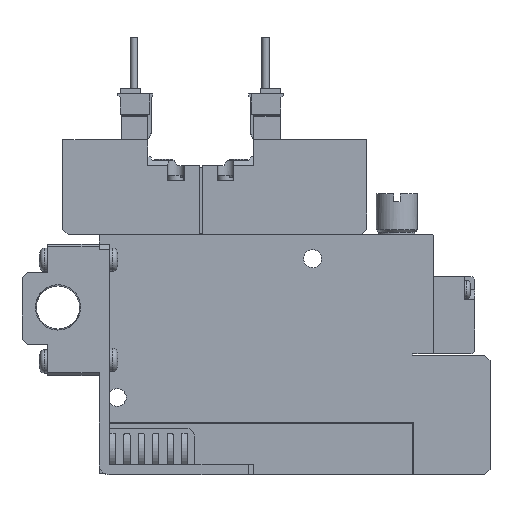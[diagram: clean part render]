
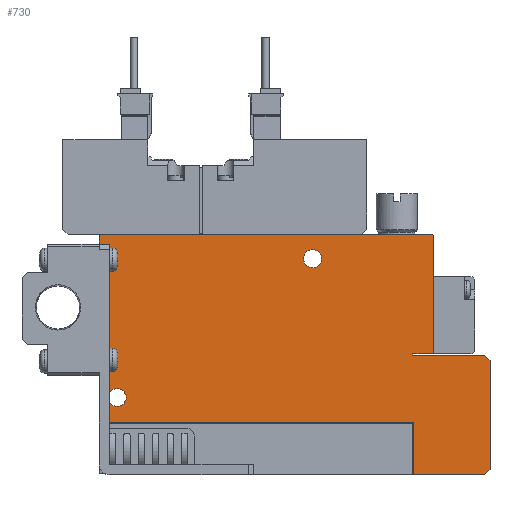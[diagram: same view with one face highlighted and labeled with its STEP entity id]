
A CAD part, top view. The second image highlights one B-rep face of the part: STEP entity #730.
In plain terms, the highlighted planar face has unit normal (0, 0, 1).
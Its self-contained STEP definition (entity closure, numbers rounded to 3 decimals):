
#730=ADVANCED_FACE('',(#1723,#1724,#1725),#1726,.F.);
#1723=FACE_OUTER_BOUND('',#2896,.T.);
#1724=FACE_BOUND('',#2897,.T.);
#1725=FACE_BOUND('',#2898,.T.);
#1726=PLANE('',#2899);
#2896=EDGE_LOOP('',(#6512,#6513,#6514,#6515,#6516,#6517,#6518,#6519,#6520,#6521,#6522,#6523,#6524,#6525));
#2897=EDGE_LOOP('',(#6526));
#2898=EDGE_LOOP('',(#6527));
#2899=AXIS2_PLACEMENT_3D('',#6528,#6529,#6530);
#6512=ORIENTED_EDGE('',*,*,#8621,.T.);
#6513=ORIENTED_EDGE('',*,*,#8467,.F.);
#6514=ORIENTED_EDGE('',*,*,#8608,.F.);
#6515=ORIENTED_EDGE('',*,*,#8617,.T.);
#6516=ORIENTED_EDGE('',*,*,#8604,.T.);
#6517=ORIENTED_EDGE('',*,*,#8612,.T.);
#6518=ORIENTED_EDGE('',*,*,#8610,.T.);
#6519=ORIENTED_EDGE('',*,*,#8571,.T.);
#6520=ORIENTED_EDGE('',*,*,#8327,.T.);
#6521=ORIENTED_EDGE('',*,*,#8484,.T.);
#6522=ORIENTED_EDGE('',*,*,#8485,.T.);
#6523=ORIENTED_EDGE('',*,*,#8465,.T.);
#6524=ORIENTED_EDGE('',*,*,#8555,.T.);
#6525=ORIENTED_EDGE('',*,*,#8590,.T.);
#6526=ORIENTED_EDGE('',*,*,#8518,.F.);
#6527=ORIENTED_EDGE('',*,*,#8624,.F.);
#6528=CARTESIAN_POINT('',(0.0,0.0,5.0));
#6529=DIRECTION('',(0.0,0.0,-1.0));
#6530=DIRECTION('',(0.0,-1.0,0.0));
#8327=EDGE_CURVE('',#10253,#10251,#10254,.T.);
#8465=EDGE_CURVE('',#10500,#10498,#10501,.T.);
#8467=EDGE_CURVE('',#10503,#10504,#10505,.T.);
#8484=EDGE_CURVE('',#10251,#10533,#10535,.T.);
#8485=EDGE_CURVE('',#10533,#10500,#10536,.T.);
#8518=EDGE_CURVE('',#10584,#10584,#10585,.T.);
#8555=EDGE_CURVE('',#10498,#10636,#10638,.T.);
#8571=EDGE_CURVE('',#10661,#10253,#10662,.T.);
#8590=EDGE_CURVE('',#10636,#10685,#10687,.T.);
#8604=EDGE_CURVE('',#10704,#10702,#10705,.T.);
#8608=EDGE_CURVE('',#10708,#10503,#10710,.T.);
#8610=EDGE_CURVE('',#10713,#10661,#10714,.T.);
#8612=EDGE_CURVE('',#10702,#10713,#10716,.T.);
#8617=EDGE_CURVE('',#10708,#10704,#10722,.T.);
#8621=EDGE_CURVE('',#10685,#10504,#10726,.T.);
#8624=EDGE_CURVE('',#10729,#10729,#10730,.T.);
#10251=VERTEX_POINT('',#13387);
#10253=VERTEX_POINT('',#13390);
#10254=LINE('',#13391,#13392);
#10498=VERTEX_POINT('',#13801);
#10500=VERTEX_POINT('',#13804);
#10501=LINE('',#13805,#13806);
#10503=VERTEX_POINT('',#13809);
#10504=VERTEX_POINT('',#13810);
#10505=LINE('',#13811,#13812);
#10533=VERTEX_POINT('',#13855);
#10535=LINE('',#13858,#13859);
#10536=LINE('',#13860,#13861);
#10584=VERTEX_POINT('',#13950);
#10585=CIRCLE('',#13951,1.75);
#10636=VERTEX_POINT('',#14049);
#10638=LINE('',#14052,#14053);
#10661=VERTEX_POINT('',#14096);
#10662=LINE('',#14097,#14098);
#10685=VERTEX_POINT('',#14151);
#10687=LINE('',#14154,#14155);
#10702=VERTEX_POINT('',#14179);
#10704=VERTEX_POINT('',#14182);
#10705=LINE('',#14183,#14184);
#10708=VERTEX_POINT('',#14189);
#10710=LINE('',#14192,#14193);
#10713=VERTEX_POINT('',#14196);
#10714=LINE('',#14197,#14198);
#10716=LINE('',#14201,#14202);
#10722=LINE('',#14212,#14213);
#10726=LINE('',#14220,#14221);
#10729=VERTEX_POINT('',#14224);
#10730=CIRCLE('',#14225,1.75);
#13387=CARTESIAN_POINT('',(61.0,23.5,5.0));
#13390=CARTESIAN_POINT('',(61.0,23.25,5.0));
#13391=CARTESIAN_POINT('',(61.0,23.25,5.0));
#13392=VECTOR('',#16300,1.0);
#13801=CARTESIAN_POINT('',(64.8,46.6,5.0));
#13804=CARTESIAN_POINT('',(65.0,46.4,5.0));
#13805=CARTESIAN_POINT('',(65.0,46.4,5.0));
#13806=VECTOR('',#16476,1.0);
#13809=CARTESIAN_POINT('',(61.1,10.1,5.0));
#13810=CARTESIAN_POINT('',(0.0,10.1,5.0));
#13811=CARTESIAN_POINT('',(61.1,10.1,5.0));
#13812=VECTOR('',#16478,1.0);
#13855=CARTESIAN_POINT('',(65.0,23.5,5.0));
#13858=CARTESIAN_POINT('',(61.0,23.5,5.0));
#13859=VECTOR('',#16495,1.0);
#13860=CARTESIAN_POINT('',(65.0,23.5,5.0));
#13861=VECTOR('',#16496,1.0);
#13950=CARTESIAN_POINT('',(5.25,15.0,5.0));
#13951=AXIS2_PLACEMENT_3D('',#16543,#16544,#16545);
#14049=CARTESIAN_POINT('',(0.2,46.6,5.0));
#14052=CARTESIAN_POINT('',(64.8,46.6,5.0));
#14053=VECTOR('',#16590,1.0);
#14096=CARTESIAN_POINT('',(75.0,23.25,5.0));
#14097=CARTESIAN_POINT('',(75.0,23.25,5.0));
#14098=VECTOR('',#16611,1.0);
#14151=CARTESIAN_POINT('',(0.0,46.4,5.0));
#14154=CARTESIAN_POINT('',(0.2,46.6,5.0));
#14155=VECTOR('',#16636,1.0);
#14179=CARTESIAN_POINT('',(76.0,1.0,5.0));
#14182=CARTESIAN_POINT('',(75.0,0.0,5.0));
#14183=CARTESIAN_POINT('',(75.0,0.0,5.0));
#14184=VECTOR('',#16656,1.0);
#14189=CARTESIAN_POINT('',(61.1,0.0,5.0));
#14192=CARTESIAN_POINT('',(61.1,0.0,5.0));
#14193=VECTOR('',#16660,1.0);
#14196=CARTESIAN_POINT('',(76.0,22.25,5.0));
#14197=CARTESIAN_POINT('',(76.0,22.25,5.0));
#14198=VECTOR('',#16664,1.0);
#14201=CARTESIAN_POINT('',(76.0,1.0,5.0));
#14202=VECTOR('',#16666,1.0);
#14212=CARTESIAN_POINT('',(0.0,0.0,5.0));
#14213=VECTOR('',#16671,1.0);
#14220=CARTESIAN_POINT('',(0.0,46.4,5.0));
#14221=VECTOR('',#16675,1.0);
#14224=CARTESIAN_POINT('',(43.25,42.0,5.0));
#14225=AXIS2_PLACEMENT_3D('',#16682,#16683,#16684);
#16300=DIRECTION('',(0.0,1.0,0.0));
#16476=DIRECTION('',(-0.707,0.707,0.0));
#16478=DIRECTION('',(-1.0,0.0,0.0));
#16495=DIRECTION('',(1.0,0.,0.0));
#16496=DIRECTION('',(0.0,1.0,0.0));
#16543=CARTESIAN_POINT('',(3.5,15.0,5.0));
#16544=DIRECTION('',(0.0,0.0,1.0));
#16545=DIRECTION('',(1.0,0.0,0.0));
#16590=DIRECTION('',(-1.0,0.0,0.0));
#16611=DIRECTION('',(-1.0,0.0,0.0));
#16636=DIRECTION('',(-0.707,-0.707,0.0));
#16656=DIRECTION('',(0.707,0.707,0.0));
#16660=DIRECTION('',(0.0,1.0,0.0));
#16664=DIRECTION('',(-0.707,0.707,0.0));
#16666=DIRECTION('',(0.0,1.0,0.0));
#16671=DIRECTION('',(1.0,0.0,0.0));
#16675=DIRECTION('',(0.0,-1.0,0.0));
#16682=CARTESIAN_POINT('',(41.5,42.0,5.0));
#16683=DIRECTION('',(0.0,0.0,1.0));
#16684=DIRECTION('',(1.0,0.0,0.0));
